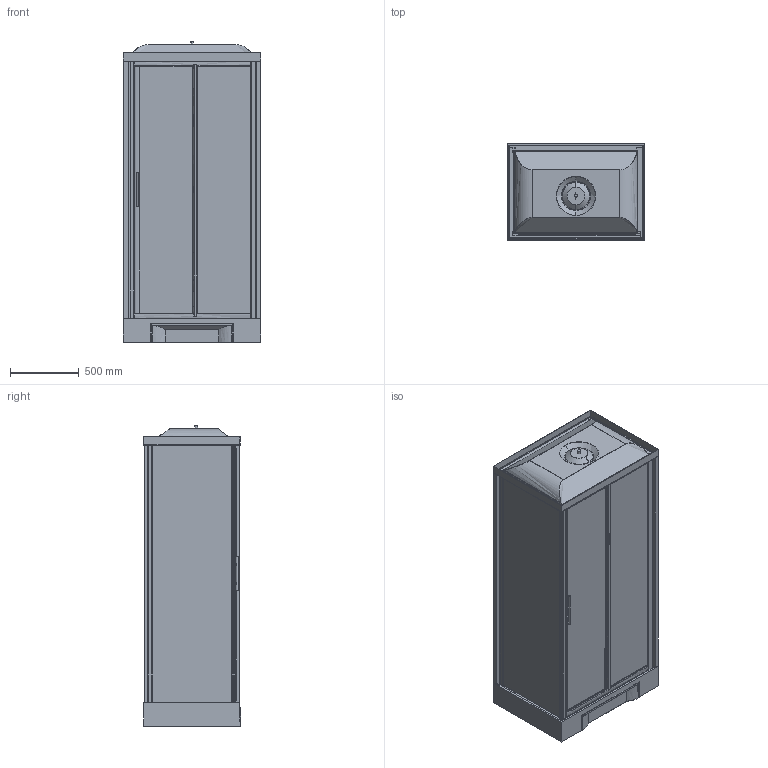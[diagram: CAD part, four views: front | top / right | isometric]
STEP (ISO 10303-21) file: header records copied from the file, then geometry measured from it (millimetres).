
FILE_DESCRIPTION(('STEP AP203'),'2;1');
FILE_NAME('NNH 2P 100 D M 19 F.stp','2015-09-08T08:56:30',(''),(''),'2014.1.117','THINKDESIGN','');
FILE_SCHEMA(('CONFIG_CONTROL_DESIGN'));
Length unit declared in the file: millimetre
Products named in the file (1): top
Bounding box: 1004.05 x 707.53 x 2192.4 mm (x, y, z)
Volume: 230471947 mm3; surface area: 19698881.4 mm2
Topology: 36 solids, 36 shells, 737 faces, 1858 edges, 1216 vertices
Faces by surface type: bspline 339, plane 310, cylinder 88
Entity records: 68871 total; most frequent: CARTESIAN_POINT 53748, ORIENTED_EDGE 3536, DIRECTION 2196, EDGE_CURVE 1768, VERTEX_POINT 1143, VECTOR 866, LINE 866, EDGE_LOOP 749
